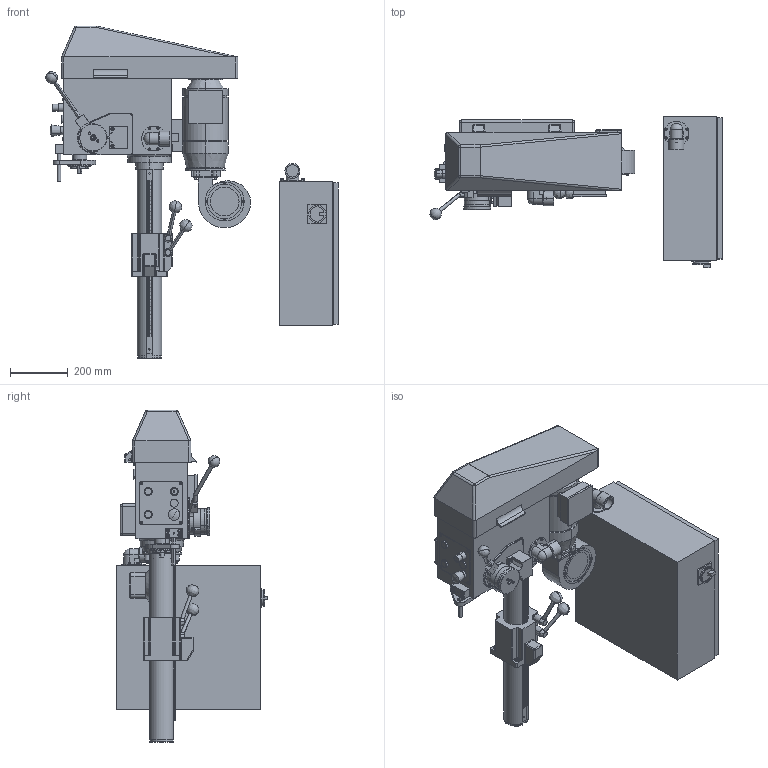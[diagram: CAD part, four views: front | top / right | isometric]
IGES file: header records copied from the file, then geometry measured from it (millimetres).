
Global section: file name: No Iges File Name specified; native system: AutoDesk Inventor R12.0; preprocessor: AutoDesk Inventor Iges Exporter R12.0; date: 20100310.153747; units: millimetre
Bounding box: 1014.17 x 525 x 1152 mm (x, y, z)
Volume: 104046008.4 mm3; surface area: 2710948.2 mm2
Topology: 49 solids, 49 shells, 2583 faces, 6807 edges, 4369 vertices
Faces by surface type: plane 1161, cylinder 492, bspline 362, revolution 338, cone 112, torus 92, sphere 26
